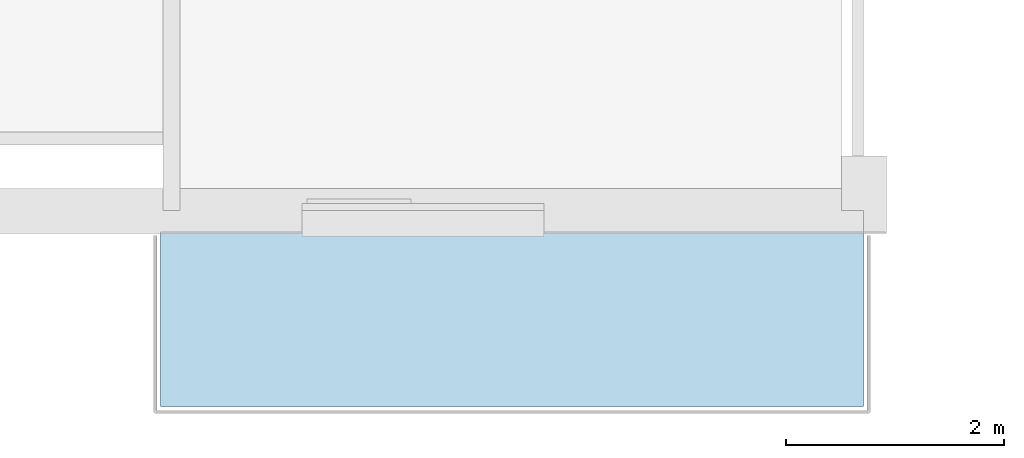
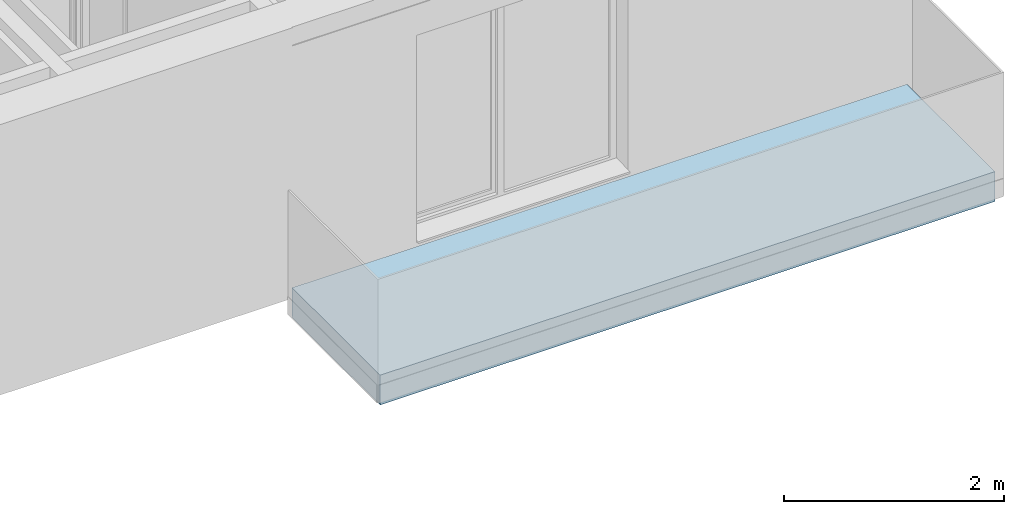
# One storey, part 2 of 64: 1 slab.
"""IFC2X3 building model written with IfcOpenShell, lengths in millimetres."""

import ifcopenshell
import ifcopenshell.guid

model = None  # the IFC model being written
_history = None  # IfcOwnerHistory: only IFC2X3 demands one
_inside = {}  # id of a spatial element -> (the spatial element, [elements in it])
_under = {}  # id of a project, library or spatial element -> (it, [spatial elements below it])
_declared = {}  # id of a project -> (the project, [libraries it declares])
_typed = {}  # id of a type object -> (the type object, [elements of that type])
_made_of = {}  # id of a material, layer set ... -> (it, [elements and type objects made of it])


def new_model(schema):
    """Start an empty IFC model of exactly this schema.

    Asked for "IFC4X3", IfcOpenShell would pick the latest addendum, in which some entities
    have other attributes; the version numbers below select the first issue.
    IFC2X3 requires an IfcOwnerHistory on every rooted entity: one is made here for all.
    """
    global model, _history
    if schema == "IFC4X3":
        model = ifcopenshell.file(schema_version=(4, 3, 0, 0))
    else:
        model = ifcopenshell.file(schema=schema)
    _inside.clear()
    _under.clear()
    _declared.clear()
    _typed.clear()
    _made_of.clear()
    _history = None
    if model.schema == "IFC2X3":
        org = make("IfcOrganization", Name="unknown")
        user = make(
            "IfcPersonAndOrganization",
            ThePerson=make("IfcPerson", FamilyName="unknown"),
            TheOrganization=org,
        )
        app = make(
            "IfcApplication",
            ApplicationDeveloper=org,
            Version="unknown",
            ApplicationFullName="unknown",
            ApplicationIdentifier="unknown",
        )
        _history = make(
            "IfcOwnerHistory",
            OwningUser=user,
            OwningApplication=app,
            ChangeAction="ADDED",
            CreationDate=0,
        )
    return model


def make(cls, **values):
    """One entity of the class cls with the attributes given. An attribute that is None is left unset."""
    return model.create_entity(
        cls, **{name: value for name, value in values.items() if value is not None}
    )


def entity(cls, *values):
    """Any entity or typed value of the class cls, its attributes in the order of the schema. None: left unset."""
    e = model.create_entity(cls)
    for i, value in enumerate(values):
        if value is not None:
            e[i] = value
    return e


def rooted(cls, **values):
    """An entity with a GlobalId (a new one), such as an element, a storey or a relation."""
    return make(cls, GlobalId=ifcopenshell.guid.new(), OwnerHistory=_history, **values)


def si_unit(unit_type, name, prefix=None):
    """IfcSIUnit, for example si_unit("LENGTHUNIT", "METRE", prefix="MILLI")."""
    return make("IfcSIUnit", UnitType=unit_type, Prefix=prefix, Name=name)


def converted_unit(unit_type, name, factor, base, dimensions=None, offset=None):
    """IfcConversionBasedUnit, such as the inch: factor (a typed value) times the base unit."""
    return make(
        "IfcConversionBasedUnit"
        if offset is None
        else "IfcConversionBasedUnitWithOffset",
        ConversionOffset=offset,
        Dimensions=None
        if dimensions is None
        else entity("IfcDimensionalExponents", *dimensions),
        UnitType=unit_type,
        Name=name,
        ConversionFactor=make(
            "IfcMeasureWithUnit", ValueComponent=factor, UnitComponent=base
        ),
    )


def derived_unit(unit_type, elements):
    """IfcDerivedUnit: a product of units, each with its exponent."""
    return make(
        "IfcDerivedUnit",
        Elements=[
            make("IfcDerivedUnitElement", Unit=unit, Exponent=power)
            for unit, power in elements
        ],
        UnitType=unit_type,
    )


def money_unit(currency):
    """IfcMonetaryUnit."""
    return make("IfcMonetaryUnit", Currency=currency)


def assignment(units):
    """IfcUnitAssignment: the units of a project."""
    return None if units is None else make("IfcUnitAssignment", Units=units)


def point(xyz):
    """IfcCartesianPoint."""
    return None if xyz is None else make("IfcCartesianPoint", Coordinates=xyz)


def direction(xyz):
    """IfcDirection."""
    return None if xyz is None else make("IfcDirection", DirectionRatios=xyz)


def frame(location, z_axis=None, x_axis=None):
    """IfcAxis2Placement3D, a coordinate frame: its origin and axes. An axis left out is left unset."""
    return make(
        "IfcAxis2Placement3D",
        Location=point(location),
        Axis=direction(z_axis),
        RefDirection=direction(x_axis),
    )


def origin_with_axes():
    """The frame at (0, 0, 0) with the z axis (0, 0, 1) and the x axis (1, 0, 0) written out."""
    return frame((0.0, 0.0, 0.0), z_axis=(0.0, 0.0, 1.0), x_axis=(1.0, 0.0, 0.0))


def place(relative_to, where):
    """IfcLocalPlacement: puts the frame where relative to a parent placement (None: the world)."""
    return make(
        "IfcLocalPlacement", PlacementRelTo=relative_to, RelativePlacement=where
    )


def context(
    kind, dimensions, precision=None, world=None, true_north=None, identifier=None
):
    """IfcGeometricRepresentationContext, for example the 3D "Model" context."""
    return make(
        "IfcGeometricRepresentationContext",
        ContextIdentifier=identifier,
        ContextType=kind,
        CoordinateSpaceDimension=dimensions,
        Precision=precision,
        WorldCoordinateSystem=world,
        TrueNorth=true_north,
    )


def subcontext(parent, identifier, kind, view, scale=None):
    """IfcGeometricRepresentationSubContext, for example "Body" below "Model"."""
    return make(
        "IfcGeometricRepresentationSubContext",
        ContextIdentifier=identifier,
        ContextType=kind,
        ParentContext=parent,
        TargetScale=scale,
        TargetView=view,
    )


def project(units=None, contexts=None):
    """IfcProject with its units and contexts."""
    return rooted(
        "IfcProject",
        Name="project",
        RepresentationContexts=contexts,
        UnitsInContext=assignment(units),
    )


def spatial(cls, under=None, at=None, **own):
    """A site, building, storey or space (cls), placed at a placement, below another one or the project."""
    s = rooted(cls, ObjectPlacement=at, **own)
    if under is not None:
        _under.setdefault(under.id(), (under, []))[1].append(s)
    return s


def faces_of(points, faces, orient=None, outer=None):
    """IfcFace entities. A face is a list of loops; a loop is a list of indices into points, from 0.

    orient and outer hold one flag for each loop. By default every Orientation is true, the
    first loop of a face is its IfcFaceOuterBound and the others are IfcFaceBound.
    """
    made = []
    for i, loops in enumerate(faces):
        bounds = []
        for j, loop in enumerate(loops):
            is_outer = j == 0 if outer is None else outer[i][j]
            bounds.append(
                make(
                    "IfcFaceOuterBound" if is_outer else "IfcFaceBound",
                    Bound=make("IfcPolyLoop", Polygon=[points[k] for k in loop]),
                    Orientation=True if orient is None else orient[i][j],
                )
            )
        made.append(make("IfcFace", Bounds=bounds))
    return made


def faceted_brep(points, faces, orient=None, outer=None, voids=None):
    """IfcFacetedBrep: a solid bounded by flat faces; with voids (closed shells), ...WithVoids."""
    shared = [point(p) for p in points]
    hull = make("IfcClosedShell", CfsFaces=faces_of(shared, faces, orient, outer))
    if voids is None:
        return make("IfcFacetedBrep", Outer=hull)
    return make(
        "IfcFacetedBrepWithVoids",
        Outer=hull,
        Voids=[
            make(cls, CfsFaces=faces_of(shared, fs, o, b)) for cls, fs, o, b in voids
        ],
    )


def shape(context_of_items, identifier, shape_type, items):
    """IfcShapeRepresentation: the items that make up one representation, for example the "Body"."""
    return make(
        "IfcShapeRepresentation",
        ContextOfItems=context_of_items,
        RepresentationIdentifier=identifier,
        RepresentationType=shape_type,
        Items=items,
    )


def material(Name=None, Category=None):
    """IfcMaterial."""
    return make("IfcMaterial", Name=Name, Category=Category)


def material_list(materials):
    """IfcMaterialList."""
    return make("IfcMaterialList", Materials=materials)


def made_of(thing, what):
    """Note that an element or type object is made of a material, layer set ...; save() writes the relation."""
    if what is not None:
        _made_of.setdefault(what.id(), (what, []))[1].append(thing)
    return thing


def type_object(cls, material=None, **own):
    """A type object (cls), such as IfcWallType, which elements share."""
    return made_of(rooted(cls, **own), material)


def element(
    cls,
    number,
    at=None,
    inside=None,
    cuts=None,
    type_object=None,
    material=None,
    context=None,
    identifier="Body",
    shape_type=None,
    held_by="IfcProductDefinitionShape",
    body=None,
    shapes=None,
    **own,
):
    """One element of the class cls, such as IfcWall. Its Tag is "e" and its number.

    at: its placement. inside: the storey or other place that contains it. cuts: it is an
    opening in that element (IfcRelVoidsElement). A single representation is given by context,
    identifier, shape_type and body (its items); several are given by shapes. held_by: the class
    of the entity that holds the representations. save() writes the other relations.
    """
    e = rooted(cls, Tag="e%d" % number, ObjectPlacement=at, **own)
    if body is not None:
        shapes = [shape(context, identifier, shape_type, body)]
    if shapes is not None:
        e.Representation = make(held_by, Representations=shapes)
    if inside is not None:
        _inside.setdefault(inside.id(), (inside, []))[1].append(e)
    if cuts is not None:
        rooted(
            "IfcRelVoidsElement", RelatingBuildingElement=cuts, RelatedOpeningElement=e
        )
    if type_object is not None:
        _typed.setdefault(type_object.id(), (type_object, []))[1].append(e)
    return made_of(e, material)


def aggregate(whole, parts):
    """IfcRelAggregates: a whole, such as a stair, and the parts it consists of."""
    return rooted("IfcRelAggregates", RelatingObject=whole, RelatedObjects=parts)


def save(model, path):
    """Write the relations noted so far, then the file.

    IfcRelAggregates (storeys below a building ...), IfcRelContainedInSpatialStructure (elements
    in a storey), IfcRelDefinesByType, IfcRelAssociatesMaterial and IfcRelDeclares: one each for
    every whole, place, type object, material and project.
    """
    for whole, parts in _under.values():
        aggregate(whole, parts)
    for where, things in _inside.values():
        rooted(
            "IfcRelContainedInSpatialStructure",
            RelatedElements=things,
            RelatingStructure=where,
        )
    for kind, things in _typed.values():
        rooted("IfcRelDefinesByType", RelatedObjects=things, RelatingType=kind)
    for what, things in _made_of.values():
        rooted("IfcRelAssociatesMaterial", RelatedObjects=things, RelatingMaterial=what)
    for by, libraries in _declared.values():
        rooted("IfcRelDeclares", RelatingContext=by, RelatedDefinitions=libraries)
    model.write(path)


model = new_model("IFC2X3")

# Units and contexts
model_context = context("Model", 3, precision=0.01, world=origin_with_axes(), true_north=direction((0.34421633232, 0.938890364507)))
body_context = subcontext(model_context, "Body", "Model", "MODEL_VIEW")
ifc_project = project(units=[si_unit("LENGTHUNIT", "METRE", prefix="MILLI"), si_unit("AREAUNIT", "SQUARE_METRE"), si_unit("VOLUMEUNIT", "CUBIC_METRE"), converted_unit("PLANEANGLEUNIT", "DEGREE", entity("IfcPlaneAngleMeasure", 0.0174532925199), si_unit("PLANEANGLEUNIT", "RADIAN"), dimensions=[0, 0, 0, 0, 0, 0, 0]), si_unit("SOLIDANGLEUNIT", "STERADIAN"), money_unit("USD"), converted_unit("TIMEUNIT", "Year", entity("IfcTimeMeasure", 31556926.0), si_unit("TIMEUNIT", "SECOND"), dimensions=[0, 0, 1, 0, 0, 0, 0]), si_unit("MASSUNIT", "GRAM", prefix="KILO"), si_unit("THERMODYNAMICTEMPERATUREUNIT", "DEGREE_CELSIUS"), si_unit("LUMINOUSINTENSITYUNIT", "LUMEN"), si_unit("ENERGYUNIT", "JOULE", prefix="MEGA"), derived_unit("THERMALCONDUCTANCEUNIT", [(si_unit("POWERUNIT", "WATT"), 1), (si_unit("LENGTHUNIT", "METRE"), -1), (si_unit("THERMODYNAMICTEMPERATUREUNIT", "KELVIN"), -1)]), derived_unit("SPECIFICHEATCAPACITYUNIT", [(si_unit("ENERGYUNIT", "JOULE"), 1), (si_unit("MASSUNIT", "GRAM", prefix="KILO"), -1), (si_unit("THERMODYNAMICTEMPERATUREUNIT", "KELVIN"), -1)]), derived_unit("MASSDENSITYUNIT", [(si_unit("MASSUNIT", "GRAM", prefix="KILO"), 1), (si_unit("VOLUMEUNIT", "CUBIC_METRE"), -1)])], contexts=[model_context])

# Site, building, storey
site_placement = place(None, origin_with_axes())
site = spatial("IfcSite", under=ifc_project, at=site_placement, Name="USTRONIE MORSKIE", CompositionType="ELEMENT")
building_placement = place(site_placement, origin_with_axes())
building = spatial("IfcBuilding", under=site, at=building_placement, Name="Budynek", CompositionType="ELEMENT")
storey_placement = place(building_placement, frame((0.0, 0.0, 7000.0), z_axis=(0.0, 0.0, 1.0), x_axis=(1.0, 0.0, 0.0)))
storey = spatial("IfcBuildingStorey", under=building, at=storey_placement, Name="PIĘTRO 2", CompositionType="ELEMENT", Elevation=7000.0)

# Slab
ifc_material_1 = material(Name="Płytki okładzinowe")
ifc_material_2 = material(Name="Pustka powietrzna")
ifc_material_3 = material(Name="Membrana przeciwwilgociowa")
ifc_material_4 = material(Name="Beton konstrukcyjny B25")
ifc_material_5 = material(Name="Laminat")
ifc_material_list = material_list([ifc_material_1, ifc_material_2, ifc_material_3, ifc_material_4, ifc_material_5])
slab_type = type_object("IfcSlabType", Name="Balkony na HALFENACH 330", PredefinedType="FLOOR")
slab_placement = place(storey_placement, frame((424467.920919, 707301.199036, -50.0), z_axis=(0.0, 0.0, 1.0), x_axis=(1.0, 0.0, 0.0)))
element("IfcSlab", 1, at=slab_placement, inside=storey, type_object=slab_type, material=ifc_material_list, Name="P3", PredefinedType="FLOOR", context=body_context, shape_type="Brep", body=[
    faceted_brep([(0.0, 1600.0, -25.0), (0.0, 1600.0, 0.0), (0.0, 0.0, 0.0), (0.0, 0.0, -25.0), (-6450.0, 1600.0, -25.0), (-6450.0, 1600.0, 0.0), (-6450.0, 0.0, 0.0), (-6450.0, 0.0, -25.0)], [[[0, 1, 2, 3]], [[4, 5, 1, 0]], [[2, 1, 5, 6]], [[3, 2, 6, 7]], [[3, 7, 4, 0]], [[7, 6, 5, 4]]]),
    faceted_brep([(0.0, 1600.0, -105.0), (0.0, 1600.0, -25.0), (0.0, 0.0, -25.0), (0.0, 0.0, -105.0), (-6450.0, 1600.0, -105.0), (-6450.0, 1600.0, -25.0), (-6450.0, 0.0, -25.0), (-6450.0, 0.0, -105.0)], [[[0, 1, 2, 3]], [[4, 5, 1, 0]], [[2, 1, 5, 6]], [[3, 2, 6, 7]], [[3, 7, 4, 0]], [[7, 6, 5, 4]]]),
    faceted_brep([(0.0, 1600.0, -110.0), (0.0, 1600.0, -105.0), (0.0, 0.0, -105.0), (0.0, 0.0, -110.0), (-6450.0, 1600.0, -110.0), (-6450.0, 1600.0, -105.0), (-6450.0, 0.0, -105.0), (-6450.0, 0.0, -110.0)], [[[0, 1, 2, 3]], [[4, 5, 1, 0]], [[2, 1, 5, 6]], [[3, 2, 6, 7]], [[3, 7, 4, 0]], [[7, 6, 5, 4]]]),
    faceted_brep([(0.0, 1600.0, -310.0), (0.0, 1600.0, -110.0), (0.0, 0.0, -110.0), (0.0, 0.0, -310.0), (-6450.0, 1600.0, -310.0), (-6450.0, 1600.0, -110.0), (-6450.0, 0.0, -110.0), (-6450.0, 0.0, -310.0)], [[[0, 1, 2, 3]], [[4, 5, 1, 0]], [[2, 1, 5, 6]], [[3, 2, 6, 7]], [[3, 7, 4, 0]], [[7, 6, 5, 4]]]),
    faceted_brep([(0.0, 1590.0, -330.0), (0.0, 1590.0, -310.0), (0.0, 0.0, -310.0), (0.0, 0.0, -330.0), (-6450.0, 1590.0, -310.0), (-6450.0, 1590.0, -330.0), (-6450.0, 0.0, -310.0), (-6450.0, 0.0, -330.0)], [[[0, 1, 2, 3]], [[4, 1, 0, 5]], [[1, 4, 6, 2]], [[6, 7, 3, 2]], [[5, 0, 3, 7]], [[4, 5, 7, 6]]]),
])

save(model, "model.ifc")
